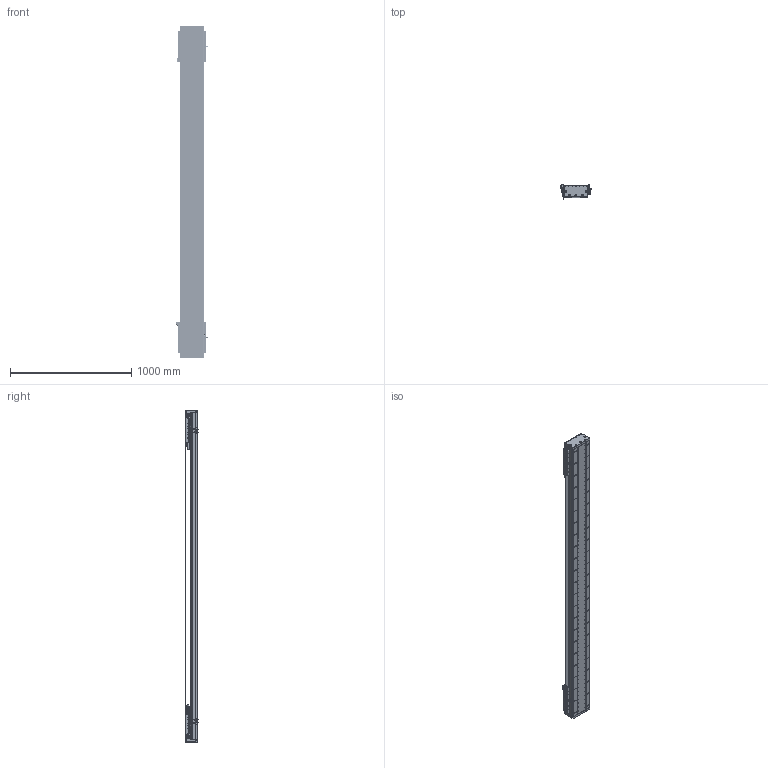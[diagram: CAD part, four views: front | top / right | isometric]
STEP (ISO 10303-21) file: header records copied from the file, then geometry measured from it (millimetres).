
FILE_DESCRIPTION (( 'STEP AP203' ), '1' );
FILE_NAME ('DA-C195-2-C3-T2120-C010-0.2 眻盄萇儂.STEP', '2025-08-15T00:47:08', ( '' ), ( '' ), 'SwSTEP 2.0', 'SolidWorks 2019', '' );
FILE_SCHEMA (( 'CONFIG_CONTROL_DESIGN' ));
Length unit declared in the file: millimetre
Products named in the file (19): IU-CU195-L 菁釱絳寢; IU-CU195-L-00 菁釱(L2700); DA165-GYP-00 光电感应片(默认); DA-C195-GD-DB-H-00 傷啣; 葩璃 DA95-GT-T-00; CU195-C3賑輸-俋楷; PM-T45ㄗ侂狟ㄘ; DA195詩湍郪璃; MS200 棠掑喜S315-T240; DKW-GYP-ZJ-00 笢潔嫖萇覜茼え; PM-Y65嫖萇羲壽郪璃; LMT黍杅芛; DA195詩湍裔啣; DA195詩湍嶺輸; DA-C195-2-C3-T2120-C010-0.2 眻盄萇儂; DA95-HXJ-00 遣喳砎蝶; DKW168-HXJ-ZJ-00 笢潔滅袉砎蝶; DKW-KGZ-ZJ-00 中间光电开关支架; DA195詩湍菜輸
Assembly tree (37 placements, depth 3):
  DA-C195-2-C3-T2120-C010-0.2 眻盄萇儂
    DA195詩湍郪璃
      DA195詩湍菜輸  x2
      DA195詩湍裔啣
      DA195詩湍嶺輸  x2
      DA95-HXJ-00 遣喳砎蝶  x8
      DA-C195-GD-DB-H-00 傷啣  x2
    IU-CU195-L 菁釱絳寢
      IU-CU195-L-00 菁釱(L2700)
      葩璃 DA95-GT-T-00  x4
    LMT黍杅芛  x2
    MS200 棠掑喜S315-T240
    PM-T45ㄗ侂狟ㄘ  x4
    DA165-GYP-00 光电感应片(默认)  x2
    PM-Y65嫖萇羲壽郪璃
    DKW168-HXJ-ZJ-00 笢潔滅袉砎蝶
    DKW-GYP-ZJ-00 笢潔嫖萇覜茼え
    DKW-KGZ-ZJ-00 中间光电开关支架
    CU195-C3賑輸-俋楷  x2
Bounding box: 258.2 x 115.45 x 2740 mm (x, y, z)
Volume: 17623560.5 mm3; surface area: 5064083.7 mm2
Topology: 154 solids, 218 shells, 6951 faces, 18663 edges, 11637 vertices
Faces by surface type: cylinder 3346, plane 2553, cone 884, torus 88, sphere 72, bspline 8
Entity records: 152913 total; most frequent: CARTESIAN_POINT 41273, ORIENTED_EDGE 23342, DIRECTION 22224, EDGE_CURVE 11671, AXIS2_PLACEMENT_3D 8185, VERTEX_POINT 7562, LINE 5854, VECTOR 5854
